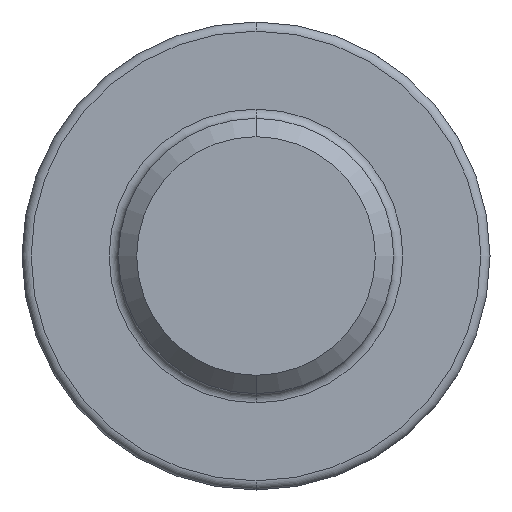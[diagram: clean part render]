
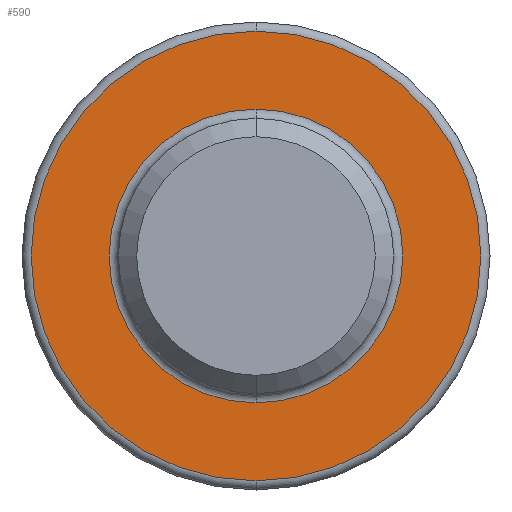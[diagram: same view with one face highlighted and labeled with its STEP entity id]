
A CAD part, front view. The second image highlights one B-rep face of the part: STEP entity #590.
In plain terms, the highlighted planar face has unit normal (0, -1, 0).
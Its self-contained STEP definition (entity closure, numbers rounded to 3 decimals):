
#6 = CARTESIAN_POINT ( 'NONE',  ( 0., -3.2, -4.9 ) ) ;
#26 = DIRECTION ( 'NONE',  ( 0., 0., 1. ) ) ;
#38 = CIRCLE ( 'NONE', #738, 3.2 ) ;
#110 = ORIENTED_EDGE ( 'NONE', *, *, #221, .T. ) ;
#111 = ORIENTED_EDGE ( 'NONE', *, *, #770, .T. ) ;
#135 = DIRECTION ( 'NONE',  ( 0., 0., 1. ) ) ;
#156 = DIRECTION ( 'NONE',  ( 0., 1., 0. ) ) ;
#168 = EDGE_CURVE ( 'NONE', #546, #369, #618, .T. ) ;
#221 = EDGE_CURVE ( 'NONE', #227, #456, #447, .T. ) ;
#227 = VERTEX_POINT ( 'NONE', #643 ) ;
#238 = DIRECTION ( 'NONE',  ( 0., -1., 0. ) ) ;
#278 = CARTESIAN_POINT ( 'NONE',  ( 3., -3.2, 0. ) ) ;
#280 = FACE_BOUND ( 'NONE', #722, .T. ) ;
#288 = CIRCLE ( 'NONE', #379, 4.9 ) ;
#303 = CARTESIAN_POINT ( 'NONE',  ( 0., -3.2, 0. ) ) ;
#306 = AXIS2_PLACEMENT_3D ( 'NONE', #278, #614, #682 ) ;
#314 = ORIENTED_EDGE ( 'NONE', *, *, #644, .T. ) ;
#340 = ORIENTED_EDGE ( 'NONE', *, *, #168, .T. ) ;
#369 = VERTEX_POINT ( 'NONE', #782 ) ;
#377 = AXIS2_PLACEMENT_3D ( 'NONE', #529, #726, #135 ) ;
#379 = AXIS2_PLACEMENT_3D ( 'NONE', #566, #238, #830 ) ;
#386 = CARTESIAN_POINT ( 'NONE',  ( 0., -3.2, -3.2 ) ) ;
#447 = CIRCLE ( 'NONE', #475, 3.2 ) ;
#456 = VERTEX_POINT ( 'NONE', #386 ) ;
#475 = AXIS2_PLACEMENT_3D ( 'NONE', #303, #156, #628 ) ;
#529 = CARTESIAN_POINT ( 'NONE',  ( 0., -3.2, 0. ) ) ;
#544 = PLANE ( 'NONE',  #306 ) ;
#546 = VERTEX_POINT ( 'NONE', #6 ) ;
#566 = CARTESIAN_POINT ( 'NONE',  ( 0., -3.2, 0. ) ) ;
#590 = ADVANCED_FACE ( 'NONE', ( #280, #804 ), #544, .F. ) ;
#614 = DIRECTION ( 'NONE',  ( 0., 1., 0. ) ) ;
#618 = CIRCLE ( 'NONE', #377, 4.9 ) ;
#628 = DIRECTION ( 'NONE',  ( 0., 0., 1. ) ) ;
#642 = DIRECTION ( 'NONE',  ( 0., 1., 0. ) ) ;
#643 = CARTESIAN_POINT ( 'NONE',  ( 0., -3.2, 3.2 ) ) ;
#644 = EDGE_CURVE ( 'NONE', #456, #227, #38, .T. ) ;
#682 = DIRECTION ( 'NONE',  ( 0., 0., 1. ) ) ;
#722 = EDGE_LOOP ( 'NONE', ( #110, #314 ) ) ;
#726 = DIRECTION ( 'NONE',  ( 0., -1., 0. ) ) ;
#738 = AXIS2_PLACEMENT_3D ( 'NONE', #824, #642, #26 ) ;
#755 = EDGE_LOOP ( 'NONE', ( #111, #340 ) ) ;
#770 = EDGE_CURVE ( 'NONE', #369, #546, #288, .T. ) ;
#782 = CARTESIAN_POINT ( 'NONE',  ( 0., -3.2, 4.9 ) ) ;
#804 = FACE_OUTER_BOUND ( 'NONE', #755, .T. ) ;
#824 = CARTESIAN_POINT ( 'NONE',  ( 0., -3.2, 0. ) ) ;
#830 = DIRECTION ( 'NONE',  ( 0., 0., 1. ) ) ;
